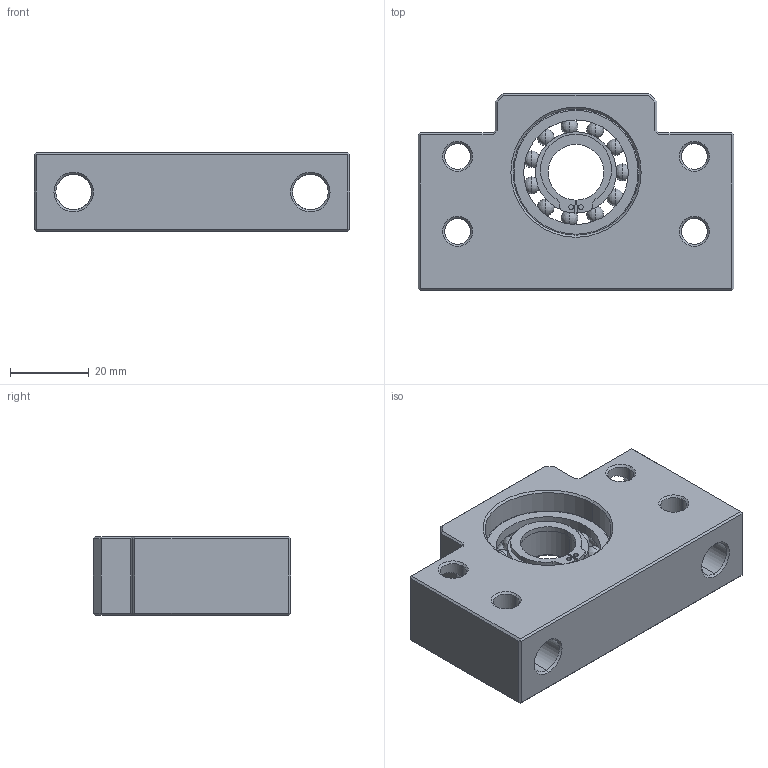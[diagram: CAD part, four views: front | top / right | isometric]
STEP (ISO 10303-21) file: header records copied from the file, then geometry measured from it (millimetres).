
FILE_DESCRIPTION (( 'STEP AP203' ), '1' );
FILE_NAME ('AF15.STEP', '2009-05-22T09:58:33', ( '冠犁泅' ), ( '俺惯何' ), 'SwSTEP 2.0', 'SolidWorks 2007', '' );
FILE_SCHEMA (( 'CONFIG_CONTROL_DESIGN' ));
Length unit declared in the file: millimetre
Products named in the file (4): Heavy Duty External Retaining Ring_am_B27.8M - 3DM1-15_B27.8M - 3DM1-15; 6002_ル遽; AF15; SAF15_BODY_晦獄 撲薑
Assembly tree (3 placements, depth 2):
  AF15
    6002_ル遽
    SAF15_BODY_晦獄 撲薑
    Heavy Duty External Retaining Ring_am_B27.8M - 3DM1-15_B27.8M - 3DM1-15
Bounding box: 80 x 50 x 20 mm (x, y, z)
Volume: 51227.1 mm3; surface area: 19206.6 mm2
Topology: 15 solids, 15 shells, 180 faces, 458 edges, 258 vertices
Faces by surface type: plane 60, cylinder 54, bspline 38, cone 28
Entity records: 6772 total; most frequent: CARTESIAN_POINT 2330, DIRECTION 842, ORIENTED_EDGE 828, EDGE_CURVE 414, AXIS2_PLACEMENT_3D 318, VERTEX_POINT 258, LINE 206, VECTOR 206
